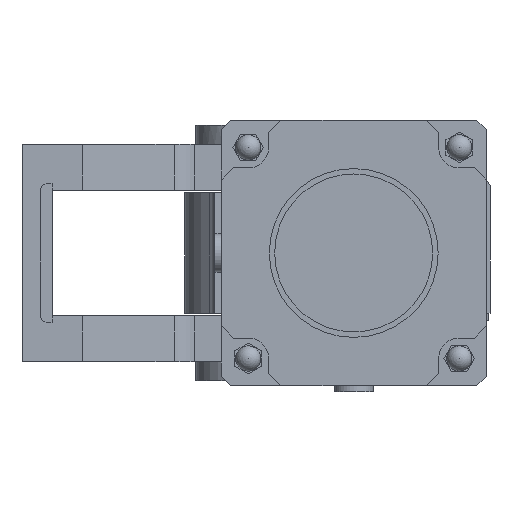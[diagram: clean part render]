
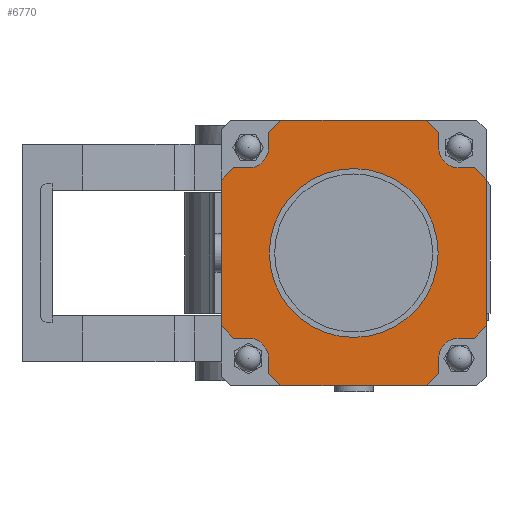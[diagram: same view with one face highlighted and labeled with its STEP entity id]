
A CAD part, front view. The second image highlights one B-rep face of the part: STEP entity #6770.
In plain terms, the highlighted planar face has unit normal (0, -1, 0).
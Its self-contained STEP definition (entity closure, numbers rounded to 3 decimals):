
#351=LINE('',#10679,#1045);
#352=LINE('',#10681,#1046);
#353=LINE('',#10683,#1047);
#354=LINE('',#10687,#1048);
#355=LINE('',#10689,#1049);
#356=LINE('',#10691,#1050);
#357=LINE('',#10693,#1051);
#358=LINE('',#10695,#1052);
#359=LINE('',#10699,#1053);
#360=LINE('',#10701,#1054);
#361=LINE('',#10703,#1055);
#362=LINE('',#10705,#1056);
#363=LINE('',#10707,#1057);
#364=LINE('',#10711,#1058);
#365=LINE('',#10713,#1059);
#366=LINE('',#10715,#1060);
#367=LINE('',#10717,#1061);
#368=LINE('',#10719,#1062);
#369=LINE('',#10723,#1063);
#370=LINE('',#10724,#1064);
#1045=VECTOR('',#8638,1000.);
#1046=VECTOR('',#8639,1000.);
#1047=VECTOR('',#8640,1000.);
#1048=VECTOR('',#8643,1000.);
#1049=VECTOR('',#8644,1000.);
#1050=VECTOR('',#8645,1000.);
#1051=VECTOR('',#8646,1000.);
#1052=VECTOR('',#8647,1000.);
#1053=VECTOR('',#8650,1000.);
#1054=VECTOR('',#8651,1000.);
#1055=VECTOR('',#8652,1000.);
#1056=VECTOR('',#8653,1000.);
#1057=VECTOR('',#8654,1000.);
#1058=VECTOR('',#8657,1000.);
#1059=VECTOR('',#8658,1000.);
#1060=VECTOR('',#8659,1000.);
#1061=VECTOR('',#8660,1000.);
#1062=VECTOR('',#8661,1000.);
#1063=VECTOR('',#8664,1000.);
#1064=VECTOR('',#8665,1000.);
#1564=PLANE('',#7479);
#1864=FACE_BOUND('',#2578,.T.);
#2086=FACE_OUTER_BOUND('',#2577,.T.);
#2577=EDGE_LOOP('',(#5290,#5291,#5292,#5293,#5294,#5295,#5296,#5297,#5298,
#5299,#5300,#5301,#5302,#5303,#5304,#5305,#5306,#5307,#5308,#5309,#5310,
#5311,#5312,#5313));
#2578=EDGE_LOOP('',(#5314));
#3010=CIRCLE('',#7461,70.);
#3017=CIRCLE('',#7480,17.);
#3018=CIRCLE('',#7481,17.);
#3019=CIRCLE('',#7482,17.);
#3020=CIRCLE('',#7483,17.);
#3338=VERTEX_POINT('',#10483);
#3429=VERTEX_POINT('',#10677);
#3430=VERTEX_POINT('',#10678);
#3431=VERTEX_POINT('',#10680);
#3432=VERTEX_POINT('',#10682);
#3433=VERTEX_POINT('',#10684);
#3434=VERTEX_POINT('',#10686);
#3435=VERTEX_POINT('',#10688);
#3436=VERTEX_POINT('',#10690);
#3437=VERTEX_POINT('',#10692);
#3438=VERTEX_POINT('',#10694);
#3439=VERTEX_POINT('',#10696);
#3440=VERTEX_POINT('',#10698);
#3441=VERTEX_POINT('',#10700);
#3442=VERTEX_POINT('',#10702);
#3443=VERTEX_POINT('',#10704);
#3444=VERTEX_POINT('',#10706);
#3445=VERTEX_POINT('',#10708);
#3446=VERTEX_POINT('',#10710);
#3447=VERTEX_POINT('',#10712);
#3448=VERTEX_POINT('',#10714);
#3449=VERTEX_POINT('',#10716);
#3450=VERTEX_POINT('',#10718);
#3451=VERTEX_POINT('',#10720);
#3452=VERTEX_POINT('',#10722);
#4046=EDGE_CURVE('',#3338,#3338,#3010,.T.);
#4137=EDGE_CURVE('',#3429,#3430,#351,.T.);
#4138=EDGE_CURVE('',#3431,#3430,#352,.T.);
#4139=EDGE_CURVE('',#3432,#3431,#353,.T.);
#4140=EDGE_CURVE('',#3433,#3432,#3017,.T.);
#4141=EDGE_CURVE('',#3434,#3433,#354,.T.);
#4142=EDGE_CURVE('',#3435,#3434,#355,.T.);
#4143=EDGE_CURVE('',#3435,#3436,#356,.T.);
#4144=EDGE_CURVE('',#3437,#3436,#357,.T.);
#4145=EDGE_CURVE('',#3438,#3437,#358,.T.);
#4146=EDGE_CURVE('',#3439,#3438,#3018,.T.);
#4147=EDGE_CURVE('',#3440,#3439,#359,.T.);
#4148=EDGE_CURVE('',#3441,#3440,#360,.T.);
#4149=EDGE_CURVE('',#3441,#3442,#361,.T.);
#4150=EDGE_CURVE('',#3443,#3442,#362,.T.);
#4151=EDGE_CURVE('',#3444,#3443,#363,.T.);
#4152=EDGE_CURVE('',#3445,#3444,#3019,.T.);
#4153=EDGE_CURVE('',#3446,#3445,#364,.T.);
#4154=EDGE_CURVE('',#3447,#3446,#365,.T.);
#4155=EDGE_CURVE('',#3447,#3448,#366,.T.);
#4156=EDGE_CURVE('',#3449,#3448,#367,.T.);
#4157=EDGE_CURVE('',#3450,#3449,#368,.T.);
#4158=EDGE_CURVE('',#3451,#3450,#3020,.T.);
#4159=EDGE_CURVE('',#3452,#3451,#369,.T.);
#4160=EDGE_CURVE('',#3429,#3452,#370,.T.);
#5290=ORIENTED_EDGE('',*,*,#4137,.T.);
#5291=ORIENTED_EDGE('',*,*,#4138,.F.);
#5292=ORIENTED_EDGE('',*,*,#4139,.F.);
#5293=ORIENTED_EDGE('',*,*,#4140,.F.);
#5294=ORIENTED_EDGE('',*,*,#4141,.F.);
#5295=ORIENTED_EDGE('',*,*,#4142,.F.);
#5296=ORIENTED_EDGE('',*,*,#4143,.T.);
#5297=ORIENTED_EDGE('',*,*,#4144,.F.);
#5298=ORIENTED_EDGE('',*,*,#4145,.F.);
#5299=ORIENTED_EDGE('',*,*,#4146,.F.);
#5300=ORIENTED_EDGE('',*,*,#4147,.F.);
#5301=ORIENTED_EDGE('',*,*,#4148,.F.);
#5302=ORIENTED_EDGE('',*,*,#4149,.T.);
#5303=ORIENTED_EDGE('',*,*,#4150,.F.);
#5304=ORIENTED_EDGE('',*,*,#4151,.F.);
#5305=ORIENTED_EDGE('',*,*,#4152,.F.);
#5306=ORIENTED_EDGE('',*,*,#4153,.F.);
#5307=ORIENTED_EDGE('',*,*,#4154,.F.);
#5308=ORIENTED_EDGE('',*,*,#4155,.T.);
#5309=ORIENTED_EDGE('',*,*,#4156,.F.);
#5310=ORIENTED_EDGE('',*,*,#4157,.F.);
#5311=ORIENTED_EDGE('',*,*,#4158,.F.);
#5312=ORIENTED_EDGE('',*,*,#4159,.F.);
#5313=ORIENTED_EDGE('',*,*,#4160,.F.);
#5314=ORIENTED_EDGE('',*,*,#4046,.F.);
#6770=ADVANCED_FACE('',(#2086,#1864),#1564,.F.);
#7461=AXIS2_PLACEMENT_3D('',#10484,#8516,#8517);
#7479=AXIS2_PLACEMENT_3D('',#10676,#8636,#8637);
#7480=AXIS2_PLACEMENT_3D('',#10685,#8641,#8642);
#7481=AXIS2_PLACEMENT_3D('',#10697,#8648,#8649);
#7482=AXIS2_PLACEMENT_3D('',#10709,#8655,#8656);
#7483=AXIS2_PLACEMENT_3D('',#10721,#8662,#8663);
#8516=DIRECTION('center_axis',(0.,-1.,0.));
#8517=DIRECTION('ref_axis',(0.,0.,1.));
#8636=DIRECTION('center_axis',(0.,1.,0.));
#8637=DIRECTION('ref_axis',(0.,0.,1.));
#8638=DIRECTION('',(0.,0.,-1.));
#8639=DIRECTION('',(-0.707,0.,0.707));
#8640=DIRECTION('',(-1.,0.,0.));
#8641=DIRECTION('center_axis',(0.,-1.,0.));
#8642=DIRECTION('ref_axis',(1.,0.,0.));
#8643=DIRECTION('',(0.,0.,1.));
#8644=DIRECTION('',(-0.707,0.,0.707));
#8645=DIRECTION('',(1.,0.,0.));
#8646=DIRECTION('',(-0.707,0.,-0.707));
#8647=DIRECTION('',(0.,0.,-1.));
#8648=DIRECTION('center_axis',(0.,-1.,0.));
#8649=DIRECTION('ref_axis',(0.,0.,1.));
#8650=DIRECTION('',(-1.,0.,0.));
#8651=DIRECTION('',(-0.707,0.,-0.707));
#8652=DIRECTION('',(0.,0.,1.));
#8653=DIRECTION('',(0.707,0.,-0.707));
#8654=DIRECTION('',(1.,0.,0.));
#8655=DIRECTION('center_axis',(0.,-1.,0.));
#8656=DIRECTION('ref_axis',(-1.,0.,0.));
#8657=DIRECTION('',(0.,0.,-1.));
#8658=DIRECTION('',(0.707,0.,-0.707));
#8659=DIRECTION('',(-1.,0.,0.));
#8660=DIRECTION('',(0.707,0.,0.707));
#8661=DIRECTION('',(0.,0.,1.));
#8662=DIRECTION('center_axis',(0.,-1.,0.));
#8663=DIRECTION('ref_axis',(0.,0.,-1.));
#8664=DIRECTION('',(1.,0.,0.));
#8665=DIRECTION('',(0.707,0.,0.707));
#10483=CARTESIAN_POINT('',(80.,-611.,70.));
#10484=CARTESIAN_POINT('Origin',(80.,-611.,0.));
#10676=CARTESIAN_POINT('Origin',(80.,-611.,0.));
#10677=CARTESIAN_POINT('',(-30.,-611.,60.5));
#10678=CARTESIAN_POINT('',(-30.,-611.,-60.5));
#10679=CARTESIAN_POINT('',(-30.,-611.,102.));
#10680=CARTESIAN_POINT('',(-20.,-611.,-70.5));
#10681=CARTESIAN_POINT('',(-30.,-611.,-60.5));
#10682=CARTESIAN_POINT('',(-7.5,-611.,-70.5));
#10683=CARTESIAN_POINT('',(-20.,-611.,-70.5));
#10684=CARTESIAN_POINT('',(9.5,-611.,-87.5));
#10685=CARTESIAN_POINT('Origin',(-7.5,-611.,-87.5));
#10686=CARTESIAN_POINT('',(9.5,-611.,-100.));
#10687=CARTESIAN_POINT('',(9.5,-611.,-87.5));
#10688=CARTESIAN_POINT('',(19.5,-611.,-110.));
#10689=CARTESIAN_POINT('',(9.5,-611.,-100.));
#10690=CARTESIAN_POINT('',(140.5,-611.,-110.));
#10691=CARTESIAN_POINT('',(-22.,-611.,-110.));
#10692=CARTESIAN_POINT('',(150.5,-611.,-100.));
#10693=CARTESIAN_POINT('',(140.5,-611.,-110.));
#10694=CARTESIAN_POINT('',(150.5,-611.,-87.5));
#10695=CARTESIAN_POINT('',(150.5,-611.,-100.));
#10696=CARTESIAN_POINT('',(167.5,-611.,-70.5));
#10697=CARTESIAN_POINT('Origin',(167.5,-611.,-87.5));
#10698=CARTESIAN_POINT('',(180.,-611.,-70.5));
#10699=CARTESIAN_POINT('',(167.5,-611.,-70.5));
#10700=CARTESIAN_POINT('',(190.,-611.,-60.5));
#10701=CARTESIAN_POINT('',(180.,-611.,-70.5));
#10702=CARTESIAN_POINT('',(190.,-611.,60.5));
#10703=CARTESIAN_POINT('',(190.,-611.,102.));
#10704=CARTESIAN_POINT('',(180.,-611.,70.5));
#10705=CARTESIAN_POINT('',(190.,-611.,60.5));
#10706=CARTESIAN_POINT('',(167.5,-611.,70.5));
#10707=CARTESIAN_POINT('',(180.,-611.,70.5));
#10708=CARTESIAN_POINT('',(150.5,-611.,87.5));
#10709=CARTESIAN_POINT('Origin',(167.5,-611.,87.5));
#10710=CARTESIAN_POINT('',(150.5,-611.,100.));
#10711=CARTESIAN_POINT('',(150.5,-611.,87.5));
#10712=CARTESIAN_POINT('',(140.5,-611.,110.));
#10713=CARTESIAN_POINT('',(150.5,-611.,100.));
#10714=CARTESIAN_POINT('',(19.5,-611.,110.));
#10715=CARTESIAN_POINT('',(-22.,-611.,110.));
#10716=CARTESIAN_POINT('',(9.5,-611.,100.));
#10717=CARTESIAN_POINT('',(19.5,-611.,110.));
#10718=CARTESIAN_POINT('',(9.5,-611.,87.5));
#10719=CARTESIAN_POINT('',(9.5,-611.,100.));
#10720=CARTESIAN_POINT('',(-7.5,-611.,70.5));
#10721=CARTESIAN_POINT('Origin',(-7.5,-611.,87.5));
#10722=CARTESIAN_POINT('',(-20.,-611.,70.5));
#10723=CARTESIAN_POINT('',(-7.5,-611.,70.5));
#10724=CARTESIAN_POINT('',(-20.,-611.,70.5));
